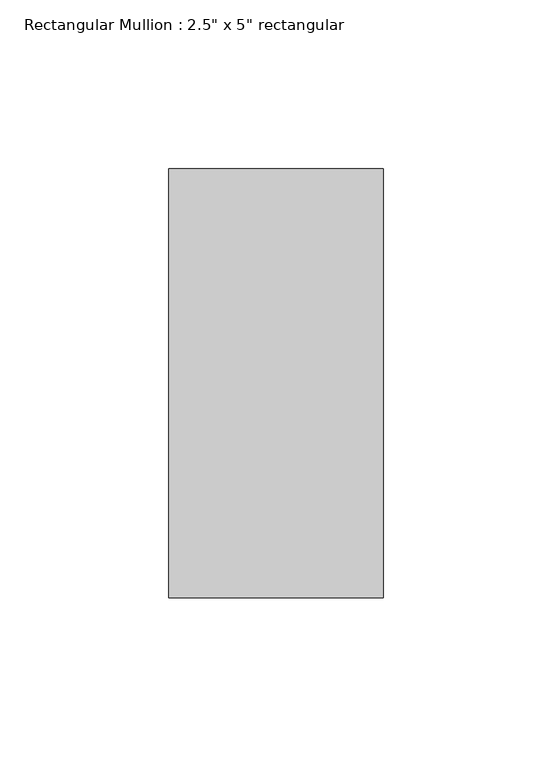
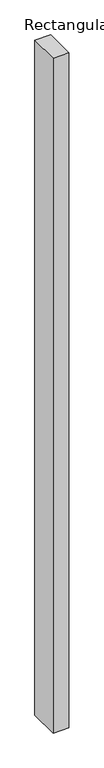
"""IFC4 building model written with IfcOpenShell, lengths in millimetres: member geometry."""

import ifcopenshell
import ifcopenshell.guid

model = None  # the IFC model being written
_history = None  # IfcOwnerHistory: only IFC2X3 demands one
_inside = {}  # id of a spatial element -> (the spatial element, [elements in it])
_under = {}  # id of a project, library or spatial element -> (it, [spatial elements below it])
_declared = {}  # id of a project -> (the project, [libraries it declares])
_typed = {}  # id of a type object -> (the type object, [elements of that type])
_made_of = {}  # id of a material, layer set ... -> (it, [elements and type objects made of it])


def new_model(schema):
    """Start an empty IFC model of exactly this schema.

    Asked for "IFC4X3", IfcOpenShell would pick the latest addendum, in which some entities
    have other attributes; the version numbers below select the first issue.
    IFC2X3 requires an IfcOwnerHistory on every rooted entity: one is made here for all.
    """
    global model, _history
    if schema == "IFC4X3":
        model = ifcopenshell.file(schema_version=(4, 3, 0, 0))
    else:
        model = ifcopenshell.file(schema=schema)
    _inside.clear()
    _under.clear()
    _declared.clear()
    _typed.clear()
    _made_of.clear()
    _history = None
    if model.schema == "IFC2X3":
        org = make("IfcOrganization", Name="unknown")
        user = make(
            "IfcPersonAndOrganization",
            ThePerson=make("IfcPerson", FamilyName="unknown"),
            TheOrganization=org,
        )
        app = make(
            "IfcApplication",
            ApplicationDeveloper=org,
            Version="unknown",
            ApplicationFullName="unknown",
            ApplicationIdentifier="unknown",
        )
        _history = make(
            "IfcOwnerHistory",
            OwningUser=user,
            OwningApplication=app,
            ChangeAction="ADDED",
            CreationDate=0,
        )
    return model


def make(cls, **values):
    """One entity of the class cls with the attributes given. An attribute that is None is left unset."""
    return model.create_entity(
        cls, **{name: value for name, value in values.items() if value is not None}
    )


def rooted(cls, **values):
    """An entity with a GlobalId (a new one), such as an element, a storey or a relation."""
    return make(cls, GlobalId=ifcopenshell.guid.new(), OwnerHistory=_history, **values)


def si_unit(unit_type, name, prefix=None):
    """IfcSIUnit, for example si_unit("LENGTHUNIT", "METRE", prefix="MILLI")."""
    return make("IfcSIUnit", UnitType=unit_type, Prefix=prefix, Name=name)


def assignment(units):
    """IfcUnitAssignment: the units of a project."""
    return None if units is None else make("IfcUnitAssignment", Units=units)


def point(xyz):
    """IfcCartesianPoint."""
    return None if xyz is None else make("IfcCartesianPoint", Coordinates=xyz)


def direction(xyz):
    """IfcDirection."""
    return None if xyz is None else make("IfcDirection", DirectionRatios=xyz)


def frame(location, z_axis=None, x_axis=None):
    """IfcAxis2Placement3D, a coordinate frame: its origin and axes. An axis left out is left unset."""
    return make(
        "IfcAxis2Placement3D",
        Location=point(location),
        Axis=direction(z_axis),
        RefDirection=direction(x_axis),
    )


def origin():
    """The frame at (0, 0, 0) with its axes left unset."""
    return frame((0.0, 0.0, 0.0))


def place(relative_to, where):
    """IfcLocalPlacement: puts the frame where relative to a parent placement (None: the world)."""
    return make(
        "IfcLocalPlacement", PlacementRelTo=relative_to, RelativePlacement=where
    )


def context(
    kind, dimensions, precision=None, world=None, true_north=None, identifier=None
):
    """IfcGeometricRepresentationContext, for example the 3D "Model" context."""
    return make(
        "IfcGeometricRepresentationContext",
        ContextIdentifier=identifier,
        ContextType=kind,
        CoordinateSpaceDimension=dimensions,
        Precision=precision,
        WorldCoordinateSystem=world,
        TrueNorth=true_north,
    )


def project(units=None, contexts=None):
    """IfcProject with its units and contexts."""
    return rooted(
        "IfcProject",
        Name="project",
        RepresentationContexts=contexts,
        UnitsInContext=assignment(units),
    )


def spatial(cls, under=None, at=None, **own):
    """A site, building, storey or space (cls), placed at a placement, below another one or the project."""
    s = rooted(cls, ObjectPlacement=at, **own)
    if under is not None:
        _under.setdefault(under.id(), (under, []))[1].append(s)
    return s


def polyline(points):
    """IfcPolyline through the points."""
    return make("IfcPolyline", Points=[point(p) for p in points])


def outline(outer, holes=None, kind="AREA"):
    """IfcArbitraryClosedProfileDef: a profile drawn as a closed curve; with holes, ...WithVoids."""
    if holes is None:
        return make("IfcArbitraryClosedProfileDef", ProfileType=kind, OuterCurve=outer)
    return make(
        "IfcArbitraryProfileDefWithVoids",
        ProfileType=kind,
        OuterCurve=outer,
        InnerCurves=holes,
    )


def extrude(swept, where, along, depth):
    """IfcExtrudedAreaSolid: the profile swept, set in the frame where, extruded along a direction by depth."""
    return make(
        "IfcExtrudedAreaSolid",
        SweptArea=swept,
        Position=where,
        ExtrudedDirection=direction(along),
        Depth=depth,
    )


def shape(context_of_items, identifier, shape_type, items):
    """IfcShapeRepresentation: the items that make up one representation, for example the "Body"."""
    return make(
        "IfcShapeRepresentation",
        ContextOfItems=context_of_items,
        RepresentationIdentifier=identifier,
        RepresentationType=shape_type,
        Items=items,
    )


def source(mapping_origin, context_of_items, identifier, shape_type, items):
    """IfcRepresentationMap: a shape defined once, which mapped items show again and again."""
    return make(
        "IfcRepresentationMap",
        MappingOrigin=mapping_origin,
        MappedRepresentation=shape(context_of_items, identifier, shape_type, items),
    )


def transform(
    local_origin,
    x_axis=None,
    y_axis=None,
    z_axis=None,
    scale=None,
    scale2=None,
    scale3=None,
    uniform=True,
):
    """IfcCartesianTransformationOperator3D, or its non-uniform kind. x_axis, y_axis, z_axis: its Axis1, 2, 3."""
    if uniform:
        return make(
            "IfcCartesianTransformationOperator3D",
            Axis1=direction(x_axis),
            Axis2=direction(y_axis),
            LocalOrigin=point(local_origin),
            Scale=scale,
            Axis3=direction(z_axis),
        )
    return make(
        "IfcCartesianTransformationOperator3DnonUniform",
        Axis1=direction(x_axis),
        Axis2=direction(y_axis),
        LocalOrigin=point(local_origin),
        Scale=scale,
        Axis3=direction(z_axis),
        Scale2=scale2,
        Scale3=scale3,
    )


def mapped(mapping_source, mapping_target):
    """IfcMappedItem: shows the shape of a source again, moved by a transform."""
    return make(
        "IfcMappedItem", MappingSource=mapping_source, MappingTarget=mapping_target
    )


def made_of(thing, what):
    """Note that an element or type object is made of a material, layer set ...; save() writes the relation."""
    if what is not None:
        _made_of.setdefault(what.id(), (what, []))[1].append(thing)
    return thing


def element(
    cls,
    number,
    at=None,
    inside=None,
    cuts=None,
    type_object=None,
    material=None,
    context=None,
    identifier="Body",
    shape_type=None,
    held_by="IfcProductDefinitionShape",
    body=None,
    shapes=None,
    **own,
):
    """One element of the class cls, such as IfcWall. Its Tag is "e" and its number.

    at: its placement. inside: the storey or other place that contains it. cuts: it is an
    opening in that element (IfcRelVoidsElement). A single representation is given by context,
    identifier, shape_type and body (its items); several are given by shapes. held_by: the class
    of the entity that holds the representations. save() writes the other relations.
    """
    e = rooted(cls, Tag="e%d" % number, ObjectPlacement=at, **own)
    if body is not None:
        shapes = [shape(context, identifier, shape_type, body)]
    if shapes is not None:
        e.Representation = make(held_by, Representations=shapes)
    if inside is not None:
        _inside.setdefault(inside.id(), (inside, []))[1].append(e)
    if cuts is not None:
        rooted(
            "IfcRelVoidsElement", RelatingBuildingElement=cuts, RelatedOpeningElement=e
        )
    if type_object is not None:
        _typed.setdefault(type_object.id(), (type_object, []))[1].append(e)
    return made_of(e, material)


def aggregate(whole, parts):
    """IfcRelAggregates: a whole, such as a stair, and the parts it consists of."""
    return rooted("IfcRelAggregates", RelatingObject=whole, RelatedObjects=parts)


def save(model, path):
    """Write the relations noted so far, then the file.

    IfcRelAggregates (storeys below a building ...), IfcRelContainedInSpatialStructure (elements
    in a storey), IfcRelDefinesByType, IfcRelAssociatesMaterial and IfcRelDeclares: one each for
    every whole, place, type object, material and project.
    """
    for whole, parts in _under.values():
        aggregate(whole, parts)
    for where, things in _inside.values():
        rooted(
            "IfcRelContainedInSpatialStructure",
            RelatedElements=things,
            RelatingStructure=where,
        )
    for kind, things in _typed.values():
        rooted("IfcRelDefinesByType", RelatedObjects=things, RelatingType=kind)
    for what, things in _made_of.values():
        rooted("IfcRelAssociatesMaterial", RelatedObjects=things, RelatingMaterial=what)
    for by, libraries in _declared.values():
        rooted("IfcRelDeclares", RelatingContext=by, RelatedDefinitions=libraries)
    model.write(path)


def member_0554ee45(model_context):
    return source(origin(), model_context, "Body", "SweptSolid", [
        extrude(outline(polyline([(31.75, 63.5), (31.75, -63.5), (-31.75, -63.5), (-31.75, 63.5), (31.75, 63.5)])), frame((0.0, 0.0, -2882.9433158), z_axis=(0.0, 0.0, 1.0), x_axis=(1.0, 0.0, 0.0)), (0.0, 0.0, 1.0), 2882.9433158),
    ])


if __name__ == "__main__":
    model = new_model("IFC4")
    model_context = context("Model", 3, world=origin())
    ifc_project = project(units=[si_unit("LENGTHUNIT", "METRE", prefix="MILLI")], contexts=[model_context])
    site = spatial("IfcSite", under=ifc_project)
    building = spatial("IfcBuilding", under=site)
    placement = place(None, origin())
    member_shape = member_0554ee45(model_context)
    element("IfcMember", 1, ObjectType="Rectangular Mullion : 2.5\" x 5\" rectangular", at=placement, inside=building, context=model_context, shape_type="MappedRepresentation", body=[
        mapped(member_shape, transform((0.0, 0.0, 0.0), x_axis=(1.0, 0.0, 0.0), y_axis=(0.0, 1.0, 0.0), z_axis=(0.0, 0.0, 1.0))),
    ])
    save(model, "model.ifc")
